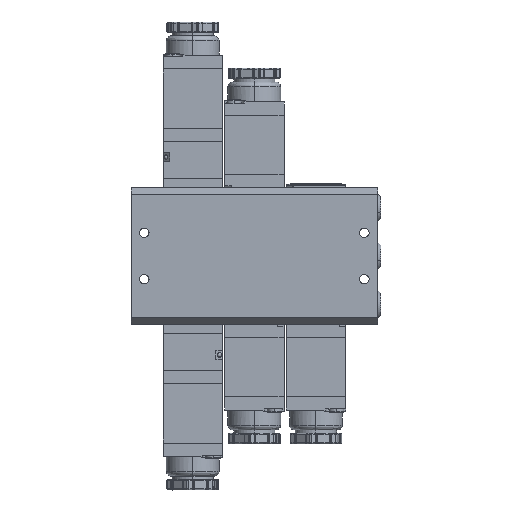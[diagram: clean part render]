
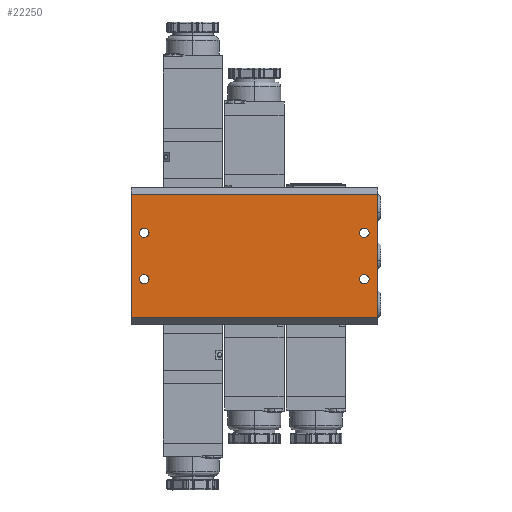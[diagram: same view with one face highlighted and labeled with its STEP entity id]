
A CAD part, front view. The second image highlights one B-rep face of the part: STEP entity #22250.
In plain terms, the highlighted planar face has unit normal (0, -1, 0).
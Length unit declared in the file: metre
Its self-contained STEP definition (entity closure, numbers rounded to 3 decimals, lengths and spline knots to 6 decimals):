
#216 = DIRECTION ( 'NONE',  ( 0., 0., 1. ) ) ;
#554 = CARTESIAN_POINT ( 'NONE',  ( 0., -0.011, 0.028 ) ) ;
#654 = ORIENTED_EDGE ( 'NONE', *, *, #11455, .F. ) ;
#694 = ORIENTED_EDGE ( 'NONE', *, *, #7068, .F. ) ;
#1633 = AXIS2_PLACEMENT_3D ( 'NONE', #24836, #11600, #30118 ) ;
#1965 = EDGE_CURVE ( 'NONE', #26679, #22306, #3807, .T. ) ;
#2549 = CARTESIAN_POINT ( 'NONE',  ( 0., -0.011, -0.028 ) ) ;
#2595 = ORIENTED_EDGE ( 'NONE', *, *, #23906, .F. ) ;
#2803 = CIRCLE ( 'NONE', #18427, 0.00215 ) ;
#3074 = EDGE_CURVE ( 'NONE', #22405, #20888, #21929, .T. ) ;
#3436 = ORIENTED_EDGE ( 'NONE', *, *, #30217, .F. ) ;
#3624 = DIRECTION ( 'NONE',  ( 0., -1., 0. ) ) ;
#3787 = FACE_BOUND ( 'NONE', #28355, .T. ) ;
#3807 = CIRCLE ( 'NONE', #30947, 0.00215 ) ;
#4134 = CIRCLE ( 'NONE', #29139, 0.00215 ) ;
#4231 = CARTESIAN_POINT ( 'NONE',  ( 0.056, -0.011, 0.028 ) ) ;
#4648 = VECTOR ( 'NONE', #15693, 1. ) ;
#4744 = EDGE_CURVE ( 'NONE', #20414, #27889, #30136, .T. ) ;
#5057 = DIRECTION ( 'NONE',  ( 0., -1., 0. ) ) ;
#5249 = ORIENTED_EDGE ( 'NONE', *, *, #22004, .F. ) ;
#5849 = CIRCLE ( 'NONE', #15570, 0.00215 ) ;
#6379 = EDGE_LOOP ( 'NONE', ( #25512, #654 ) ) ;
#6557 = VERTEX_POINT ( 'NONE', #17215 ) ;
#6805 = LINE ( 'NONE', #2549, #20037 ) ;
#7068 = EDGE_CURVE ( 'NONE', #31929, #22405, #29443, .T. ) ;
#7126 = LINE ( 'NONE', #13032, #4648 ) ;
#7863 = VECTOR ( 'NONE', #34098, 1. ) ;
#8679 = CIRCLE ( 'NONE', #28846, 0.00215 ) ;
#8761 = CARTESIAN_POINT ( 'NONE',  ( -0.05, -0.011, -0.0105 ) ) ;
#8806 = DIRECTION ( 'NONE',  ( 0., -1., 0. ) ) ;
#8834 = DIRECTION ( 'NONE',  ( 0., 0., 1. ) ) ;
#8921 = EDGE_CURVE ( 'NONE', #25238, #15931, #5849, .T. ) ;
#8937 = PLANE ( 'NONE',  #1633 ) ;
#9943 = FACE_BOUND ( 'NONE', #6379, .T. ) ;
#11101 = CARTESIAN_POINT ( 'NONE',  ( -0.05, -0.011, 0.01265 ) ) ;
#11455 = EDGE_CURVE ( 'NONE', #27889, #20414, #2803, .T. ) ;
#11600 = DIRECTION ( 'NONE',  ( 0., 1., 0. ) ) ;
#11910 = CARTESIAN_POINT ( 'NONE',  ( -0.05, -0.011, 0.0105 ) ) ;
#12391 = AXIS2_PLACEMENT_3D ( 'NONE', #20886, #5057, #23554 ) ;
#12996 = CARTESIAN_POINT ( 'NONE',  ( -0.05, -0.011, -0.0105 ) ) ;
#13032 = CARTESIAN_POINT ( 'NONE',  ( -0.056, -0.011, 0. ) ) ;
#14563 = DIRECTION ( 'NONE',  ( 0., 0., 1. ) ) ;
#15296 = DIRECTION ( 'NONE',  ( 0., -1., 0. ) ) ;
#15349 = VECTOR ( 'NONE', #24384, 1. ) ;
#15359 = CARTESIAN_POINT ( 'NONE',  ( 0.05, -0.011, -0.0105 ) ) ;
#15432 = ORIENTED_EDGE ( 'NONE', *, *, #21423, .F. ) ;
#15570 = AXIS2_PLACEMENT_3D ( 'NONE', #31846, #16017, #216 ) ;
#15656 = DIRECTION ( 'NONE',  ( 0., 0., 1. ) ) ;
#15693 = DIRECTION ( 'NONE',  ( 0., 0., 1. ) ) ;
#15931 = VERTEX_POINT ( 'NONE', #23883 ) ;
#16017 = DIRECTION ( 'NONE',  ( 0., -1., 0. ) ) ;
#16997 = FACE_BOUND ( 'NONE', #17155, .T. ) ;
#17155 = EDGE_LOOP ( 'NONE', ( #5249, #27399 ) ) ;
#17215 = CARTESIAN_POINT ( 'NONE',  ( 0.05, -0.011, -0.00835 ) ) ;
#17291 = CARTESIAN_POINT ( 'NONE',  ( 0.05, -0.011, 0.01265 ) ) ;
#17920 = EDGE_LOOP ( 'NONE', ( #30332, #694, #15432, #19853 ) ) ;
#18031 = DIRECTION ( 'NONE',  ( 0., 0., 1. ) ) ;
#18353 = EDGE_CURVE ( 'NONE', #20888, #33997, #6805, .T. ) ;
#18427 = AXIS2_PLACEMENT_3D ( 'NONE', #31148, #15296, #33731 ) ;
#18741 = EDGE_LOOP ( 'NONE', ( #32917, #28186 ) ) ;
#19288 = VERTEX_POINT ( 'NONE', #21106 ) ;
#19445 = CARTESIAN_POINT ( 'NONE',  ( 0.05, -0.011, 0.0105 ) ) ;
#19501 = AXIS2_PLACEMENT_3D ( 'NONE', #19445, #3624, #22121 ) ;
#19853 = ORIENTED_EDGE ( 'NONE', *, *, #18353, .F. ) ;
#20037 = VECTOR ( 'NONE', #34115, 1. ) ;
#20414 = VERTEX_POINT ( 'NONE', #17291 ) ;
#20861 = CARTESIAN_POINT ( 'NONE',  ( 0.056, -0.011, -0.028 ) ) ;
#20886 = CARTESIAN_POINT ( 'NONE',  ( 0.05, -0.011, -0.0105 ) ) ;
#20888 = VERTEX_POINT ( 'NONE', #20861 ) ;
#21106 = CARTESIAN_POINT ( 'NONE',  ( 0.05, -0.011, -0.01265 ) ) ;
#21423 = EDGE_CURVE ( 'NONE', #33997, #31929, #7126, .T. ) ;
#21929 = LINE ( 'NONE', #34130, #7863 ) ;
#21981 = CIRCLE ( 'NONE', #33023, 0.00215 ) ;
#22004 = EDGE_CURVE ( 'NONE', #22306, #26679, #21981, .T. ) ;
#22121 = DIRECTION ( 'NONE',  ( 0., 0., 1. ) ) ;
#22250 = ADVANCED_FACE ( 'NONE', ( #3787, #25734, #16997, #9943, #24067 ), #8937, .F. ) ;
#22306 = VERTEX_POINT ( 'NONE', #22373 ) ;
#22373 = CARTESIAN_POINT ( 'NONE',  ( -0.05, -0.011, -0.00835 ) ) ;
#22405 = VERTEX_POINT ( 'NONE', #4231 ) ;
#23554 = DIRECTION ( 'NONE',  ( 0., 0., 1. ) ) ;
#23648 = CIRCLE ( 'NONE', #12391, 0.00215 ) ;
#23806 = CARTESIAN_POINT ( 'NONE',  ( -0.056, -0.011, 0.028 ) ) ;
#23883 = CARTESIAN_POINT ( 'NONE',  ( -0.05, -0.011, 0.00835 ) ) ;
#23906 = EDGE_CURVE ( 'NONE', #19288, #6557, #4134, .T. ) ;
#24067 = FACE_OUTER_BOUND ( 'NONE', #17920, .T. ) ;
#24384 = DIRECTION ( 'NONE',  ( 1., 0., 0. ) ) ;
#24836 = CARTESIAN_POINT ( 'NONE',  ( -0.056, -0.011, -0.028 ) ) ;
#24854 = CARTESIAN_POINT ( 'NONE',  ( 0.05, -0.011, 0.00835 ) ) ;
#25238 = VERTEX_POINT ( 'NONE', #11101 ) ;
#25512 = ORIENTED_EDGE ( 'NONE', *, *, #4744, .F. ) ;
#25734 = FACE_BOUND ( 'NONE', #18741, .T. ) ;
#26679 = VERTEX_POINT ( 'NONE', #32286 ) ;
#27387 = CARTESIAN_POINT ( 'NONE',  ( -0.056, -0.011, -0.028 ) ) ;
#27399 = ORIENTED_EDGE ( 'NONE', *, *, #1965, .F. ) ;
#27889 = VERTEX_POINT ( 'NONE', #24854 ) ;
#28186 = ORIENTED_EDGE ( 'NONE', *, *, #30966, .F. ) ;
#28355 = EDGE_LOOP ( 'NONE', ( #3436, #2595 ) ) ;
#28846 = AXIS2_PLACEMENT_3D ( 'NONE', #11910, #30433, #14563 ) ;
#29139 = AXIS2_PLACEMENT_3D ( 'NONE', #15359, #33789, #18031 ) ;
#29443 = LINE ( 'NONE', #554, #15349 ) ;
#30118 = DIRECTION ( 'NONE',  ( 0., 0., 1. ) ) ;
#30136 = CIRCLE ( 'NONE', #19501, 0.00215 ) ;
#30217 = EDGE_CURVE ( 'NONE', #6557, #19288, #23648, .T. ) ;
#30332 = ORIENTED_EDGE ( 'NONE', *, *, #3074, .F. ) ;
#30433 = DIRECTION ( 'NONE',  ( 0., -1., 0. ) ) ;
#30947 = AXIS2_PLACEMENT_3D ( 'NONE', #8761, #8806, #8834 ) ;
#30966 = EDGE_CURVE ( 'NONE', #15931, #25238, #8679, .T. ) ;
#31148 = CARTESIAN_POINT ( 'NONE',  ( 0.05, -0.011, 0.0105 ) ) ;
#31492 = DIRECTION ( 'NONE',  ( 0., -1., 0. ) ) ;
#31846 = CARTESIAN_POINT ( 'NONE',  ( -0.05, -0.011, 0.0105 ) ) ;
#31929 = VERTEX_POINT ( 'NONE', #23806 ) ;
#32286 = CARTESIAN_POINT ( 'NONE',  ( -0.05, -0.011, -0.01265 ) ) ;
#32917 = ORIENTED_EDGE ( 'NONE', *, *, #8921, .F. ) ;
#33023 = AXIS2_PLACEMENT_3D ( 'NONE', #12996, #31492, #15656 ) ;
#33731 = DIRECTION ( 'NONE',  ( 0., 0., 1. ) ) ;
#33789 = DIRECTION ( 'NONE',  ( 0., -1., 0. ) ) ;
#33997 = VERTEX_POINT ( 'NONE', #27387 ) ;
#34098 = DIRECTION ( 'NONE',  ( 0., 0., -1. ) ) ;
#34115 = DIRECTION ( 'NONE',  ( -1., 0., 0. ) ) ;
#34130 = CARTESIAN_POINT ( 'NONE',  ( 0.056, -0.011, 0. ) ) ;
